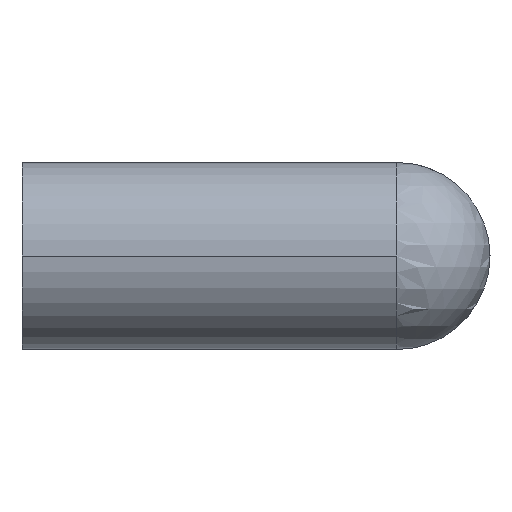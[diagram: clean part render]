
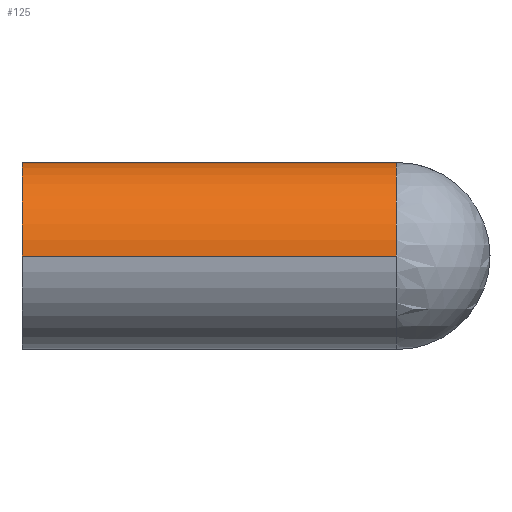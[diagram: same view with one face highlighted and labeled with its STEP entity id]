
A CAD part, left-side view. The second image highlights one B-rep face of the part: STEP entity #125.
In plain terms, the highlighted cylindrical face has radius 6 mm (diameter 12 mm), a partial arc.
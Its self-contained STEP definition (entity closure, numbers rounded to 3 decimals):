
#105 = EDGE_CURVE( '', #157, #123, #262, .T. );
#111 = VERTEX_POINT( '', #269 );
#123 = VERTEX_POINT( '', #281 );
#125 = ADVANCED_FACE( '', ( #283 ), #284, .T. );
#145 = EDGE_CURVE( '', #207, #111, #307, .T. );
#147 = EDGE_CURVE( '', #197, #157, #309, .T. );
#155 = EDGE_CURVE( '', #207, #197, #318, .T. );
#157 = VERTEX_POINT( '', #320 );
#159 = EDGE_CURVE( '', #111, #123, #322, .T. );
#197 = VERTEX_POINT( '', #365 );
#207 = VERTEX_POINT( '', #377 );
#262 = LINE( '', #427, #428 );
#269 = CARTESIAN_POINT( '', ( 0., -24., 6. ) );
#281 = CARTESIAN_POINT( '', ( 6., -18., 0. ) );
#283 = FACE_OUTER_BOUND( '', #453, .T. );
#284 = CYLINDRICAL_SURFACE( '', #454, 6. );
#307 = CIRCLE( '', #480, 6. );
#309 = CIRCLE( '', #483, 6. );
#318 = LINE( '', #494, #495 );
#320 = CARTESIAN_POINT( '', ( 6., 0., 0. ) );
#322 = ELLIPSE( '', #500, 8.485, 6. );
#365 = CARTESIAN_POINT( '', ( -6., 0., 0. ) );
#377 = CARTESIAN_POINT( '', ( -6., -24., 0. ) );
#427 = CARTESIAN_POINT( '', ( 6., 0., 0. ) );
#428 = VECTOR( '', #633, 1. );
#453 = EDGE_LOOP( '', ( #652, #653, #654, #655, #656 ) );
#454 = AXIS2_PLACEMENT_3D( '', #657, #658, #659 );
#480 = AXIS2_PLACEMENT_3D( '', #686, #687, #688 );
#483 = AXIS2_PLACEMENT_3D( '', #689, #690, #691 );
#494 = CARTESIAN_POINT( '', ( -6., 0., 0. ) );
#495 = VECTOR( '', #704, 1. );
#500 = AXIS2_PLACEMENT_3D( '', #705, #706, #707 );
#633 = DIRECTION( '', ( 0., -1., 0. ) );
#652 = ORIENTED_EDGE( '', *, *, #105, .F. );
#653 = ORIENTED_EDGE( '', *, *, #147, .F. );
#654 = ORIENTED_EDGE( '', *, *, #155, .F. );
#655 = ORIENTED_EDGE( '', *, *, #145, .T. );
#656 = ORIENTED_EDGE( '', *, *, #159, .T. );
#657 = CARTESIAN_POINT( '', ( 0., 0., 0. ) );
#658 = DIRECTION( '', ( 0., 1., 0. ) );
#659 = DIRECTION( '', ( 1., 0., 0. ) );
#686 = CARTESIAN_POINT( '', ( 0., -24., 0. ) );
#687 = DIRECTION( '', ( 0., 1., 0. ) );
#688 = DIRECTION( '', ( 1., 0., 0. ) );
#689 = CARTESIAN_POINT( '', ( 0., 0., 0. ) );
#690 = DIRECTION( '', ( 0., 1., 0. ) );
#691 = DIRECTION( '', ( 1., 0., 0. ) );
#704 = DIRECTION( '', ( 0., 1., 0. ) );
#705 = CARTESIAN_POINT( '', ( 0., -24., 0. ) );
#706 = DIRECTION( '', ( -0.707, 0.707, 0. ) );
#707 = DIRECTION( '', ( 0.707, 0.707, 0. ) );
